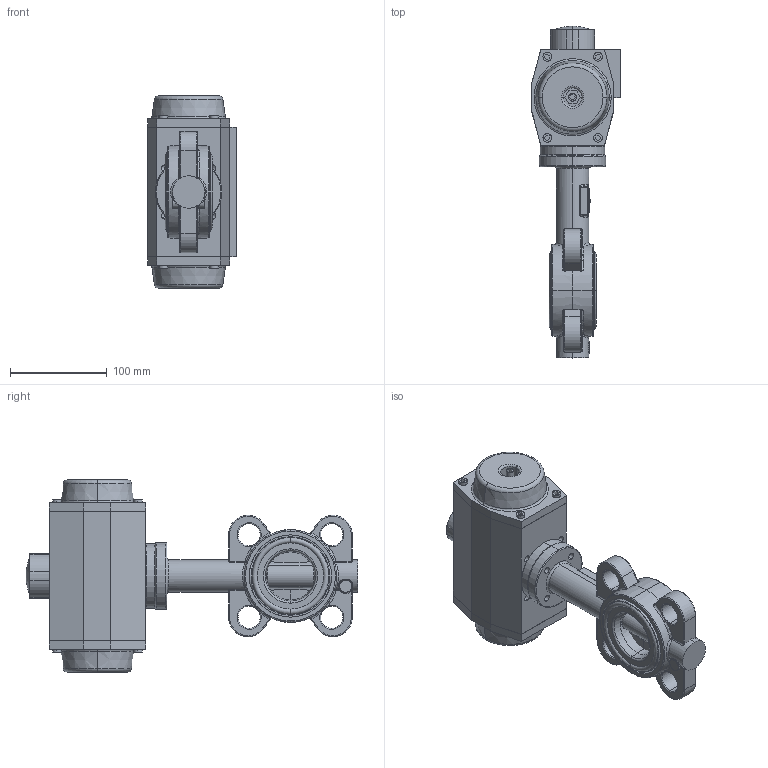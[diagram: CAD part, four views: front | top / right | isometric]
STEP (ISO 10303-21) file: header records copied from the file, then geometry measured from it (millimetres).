
FILE_DESCRIPTION (( 'STEP AP214' ), '1' );
FILE_NAME ('VTB200 DN50 + AP3S.STEP', '2015-10-04T19:16:52', ( '' ), ( '' ), 'SwSTEP 2.0', 'SolidWorks 2013', '' );
FILE_SCHEMA (( 'AUTOMOTIVE_DESIGN' ));
Length unit declared in the file: millimetre
Products named in the file (8): Klep VTB200 DN50 2013; Huis met zitting DN50 2013; VTB200 DN50 + AP3S; Verloopster 17_11; AP3_Default<As Machined>; YF067F5F5H10D15NYL; VTB200 Wafer DN50 BS; Typeplaatje xxmm
Assembly tree (7 placements, depth 3):
  VTB200 DN50 + AP3S
    VTB200 Wafer DN50 BS
      Huis met zitting DN50 2013
      Klep VTB200 DN50 2013
      Typeplaatje xxmm
    YF067F5F5H10D15NYL
    AP3_Default<As Machined>
    Verloopster 17_11
Bounding box: 92 x 343.99 x 199 mm (x, y, z)
Volume: 1983471.9 mm3; surface area: 216711.8 mm2
Topology: 13 solids, 13 shells, 918 faces, 2246 edges, 1362 vertices
Faces by surface type: plane 315, cylinder 212, bspline 159, torus 116, cone 94, sphere 22
Entity records: 40607 total; most frequent: CARTESIAN_POINT 17260, ORIENTED_EDGE 4380, DIRECTION 4197, EDGE_CURVE 2190, AXIS2_PLACEMENT_3D 1615, VERTEX_POINT 1362, EDGE_LOOP 1022, LINE 967
